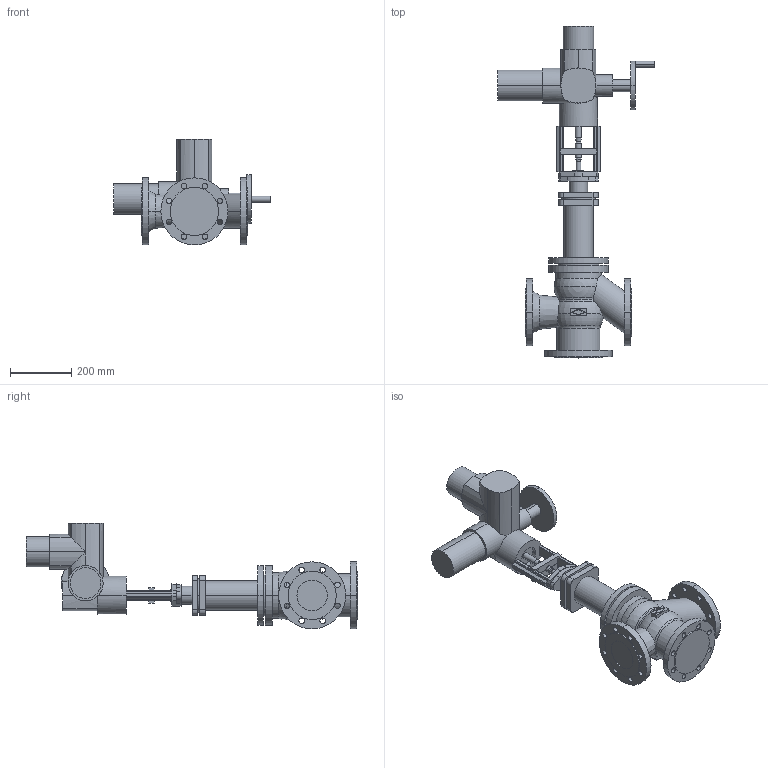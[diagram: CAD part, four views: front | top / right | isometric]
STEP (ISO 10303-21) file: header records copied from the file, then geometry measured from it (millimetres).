
FILE_DESCRIPTION(('OneSpaceDesigner STEP Export'),'2;1');
FILE_NAME('c000003193.stp','2007-01-25T11:47:15',(''),(''),'OneSpace Designer STEP processor for AP214 (Solid Model)','OneSpace Designer 14.00B 27-May-2006 (C) CoCreate Software GmbH','');
FILE_SCHEMA(('AUTOMOTIVE_DESIGN { 1 0 10303 214 1 1 1 1 }'));
Length unit declared in the file: millimetre
Products named in the file (2): 1; 2
Bounding box: 514 x 1087.7 x 347 mm (x, y, z)
Volume: 20763353.7 mm3; surface area: 1096020.1 mm2
Topology: 2 solids, 2 shells, 356 faces, 921 edges, 587 vertices
Faces by surface type: cylinder 180, plane 154, torus 10, cone 8, sphere 4
Entity records: 10312 total; most frequent: CARTESIAN_POINT 2189, ORIENTED_EDGE 1834, DIRECTION 1506, EDGE_CURVE 917, VERTEX_POINT 587, AXIS2_PLACEMENT_3D 522, VECTOR 462, LINE 462
